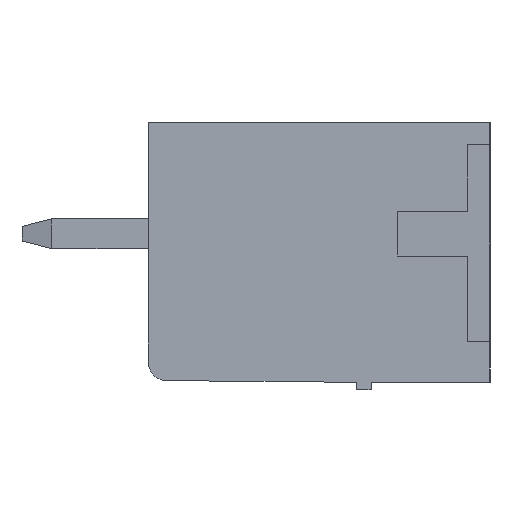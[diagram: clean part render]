
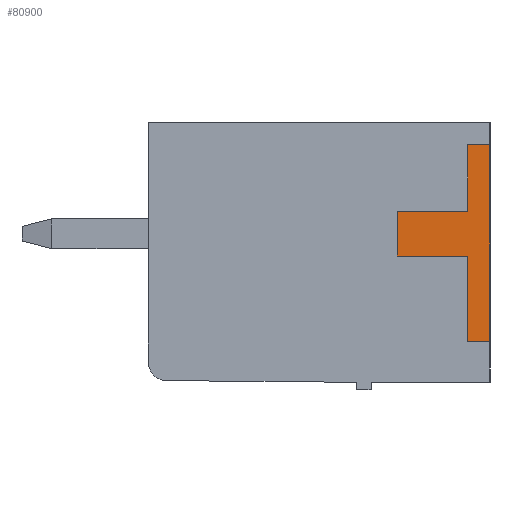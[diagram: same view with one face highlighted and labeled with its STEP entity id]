
A CAD part, left-side view. The second image highlights one B-rep face of the part: STEP entity #80900.
In plain terms, the highlighted planar face has unit normal (-1, 0, 0).
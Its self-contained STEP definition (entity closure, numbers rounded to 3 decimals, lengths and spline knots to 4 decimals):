
#100 = PLANE('',#101);
#101 = AXIS2_PLACEMENT_3D('',#102,#103,#104);
#102 = CARTESIAN_POINT('',(0.,0.,7.));
#103 = DIRECTION('',(0.,-1.,0.));
#104 = DIRECTION('',(0.,0.,-1.));
#128 = PLANE('',#129);
#129 = AXIS2_PLACEMENT_3D('',#130,#131,#132);
#130 = CARTESIAN_POINT('',(0.,0.,6.4));
#131 = DIRECTION('',(0.,0.,1.));
#132 = DIRECTION('',(0.,1.,0.));
#156 = PLANE('',#157);
#157 = AXIS2_PLACEMENT_3D('',#158,#159,#160);
#158 = CARTESIAN_POINT('',(0.,0.6,6.4));
#159 = DIRECTION('',(0.,1.,0.));
#160 = DIRECTION('',(0.,0.,-1.));
#184 = PLANE('',#185);
#185 = AXIS2_PLACEMENT_3D('',#186,#187,#188);
#186 = CARTESIAN_POINT('',(0.,0.6,4.6));
#187 = DIRECTION('',(0.,0.,1.));
#188 = DIRECTION('',(0.,1.,0.));
#212 = PLANE('',#213);
#213 = AXIS2_PLACEMENT_3D('',#214,#215,#216);
#214 = CARTESIAN_POINT('',(0.,2.5,4.6));
#215 = DIRECTION('',(0.,1.,0.));
#216 = DIRECTION('',(0.,0.,-1.));
#240 = PLANE('',#241);
#241 = AXIS2_PLACEMENT_3D('',#242,#243,#244);
#242 = CARTESIAN_POINT('',(0.,2.5,3.4));
#243 = DIRECTION('',(0.,0.,-1.));
#244 = DIRECTION('',(0.,-1.,0.));
#268 = PLANE('',#269);
#269 = AXIS2_PLACEMENT_3D('',#270,#271,#272);
#270 = CARTESIAN_POINT('',(0.,0.6,3.4));
#271 = DIRECTION('',(0.,1.,0.));
#272 = DIRECTION('',(0.,0.,-1.));
#296 = PLANE('',#297);
#297 = AXIS2_PLACEMENT_3D('',#298,#299,#300);
#298 = CARTESIAN_POINT('',(0.,0.6,1.1));
#299 = DIRECTION('',(0.,0.,-1.));
#300 = DIRECTION('',(0.,-1.,0.));
#9801 = VERTEX_POINT('',#9802);
#9802 = CARTESIAN_POINT('',(-0.2,0.,1.1));
#9823 = EDGE_CURVE('',#9801,#9824,#9826,.T.);
#9824 = VERTEX_POINT('',#9825);
#9825 = CARTESIAN_POINT('',(-0.2,0.,6.4));
#9826 = SURFACE_CURVE('',#9827,(#9831,#9838),.PCURVE_S1.);
#9827 = LINE('',#9828,#9829);
#9828 = CARTESIAN_POINT('',(-0.2,0.,1.1));
#9829 = VECTOR('',#9830,1.);
#9830 = DIRECTION('',(0.,0.,1.));
#9831 = PCURVE('',#100,#9832);
#9832 = DEFINITIONAL_REPRESENTATION('',(#9833),#9837);
#9833 = LINE('',#9834,#9835);
#9834 = CARTESIAN_POINT('',(5.9,-0.2));
#9835 = VECTOR('',#9836,1.);
#9836 = DIRECTION('',(-1.,0.));
#9837 = ( GEOMETRIC_REPRESENTATION_CONTEXT(2) 
PARAMETRIC_REPRESENTATION_CONTEXT() REPRESENTATION_CONTEXT('2D SPACE',''
  ) );
#9838 = PCURVE('',#9839,#9844);
#9839 = PLANE('',#9840);
#9840 = AXIS2_PLACEMENT_3D('',#9841,#9842,#9843);
#9841 = CARTESIAN_POINT('',(-0.2,0.,0.));
#9842 = DIRECTION('',(-1.,0.,0.));
#9843 = DIRECTION('',(0.,0.,1.));
#9844 = DEFINITIONAL_REPRESENTATION('',(#9845),#9849);
#9845 = LINE('',#9846,#9847);
#9846 = CARTESIAN_POINT('',(1.1,0.));
#9847 = VECTOR('',#9848,1.);
#9848 = DIRECTION('',(1.,0.));
#9849 = ( GEOMETRIC_REPRESENTATION_CONTEXT(2) 
PARAMETRIC_REPRESENTATION_CONTEXT() REPRESENTATION_CONTEXT('2D SPACE',''
  ) );
#80585 = VERTEX_POINT('',#80586);
#80586 = CARTESIAN_POINT('',(-0.2,0.6,1.1));
#80607 = EDGE_CURVE('',#80585,#9801,#80608,.T.);
#80608 = SURFACE_CURVE('',#80609,(#80613,#80620),.PCURVE_S1.);
#80609 = LINE('',#80610,#80611);
#80610 = CARTESIAN_POINT('',(-0.2,0.6,1.1));
#80611 = VECTOR('',#80612,1.);
#80612 = DIRECTION('',(0.,-1.,0.));
#80613 = PCURVE('',#296,#80614);
#80614 = DEFINITIONAL_REPRESENTATION('',(#80615),#80619);
#80615 = LINE('',#80616,#80617);
#80616 = CARTESIAN_POINT('',(0.,0.2));
#80617 = VECTOR('',#80618,1.);
#80618 = DIRECTION('',(1.,0.));
#80619 = ( GEOMETRIC_REPRESENTATION_CONTEXT(2) 
PARAMETRIC_REPRESENTATION_CONTEXT() REPRESENTATION_CONTEXT('2D SPACE',''
  ) );
#80620 = PCURVE('',#9839,#80621);
#80621 = DEFINITIONAL_REPRESENTATION('',(#80622),#80626);
#80622 = LINE('',#80623,#80624);
#80623 = CARTESIAN_POINT('',(1.1,0.6));
#80624 = VECTOR('',#80625,1.);
#80625 = DIRECTION('',(0.,-1.));
#80626 = ( GEOMETRIC_REPRESENTATION_CONTEXT(2) 
PARAMETRIC_REPRESENTATION_CONTEXT() REPRESENTATION_CONTEXT('2D SPACE',''
  ) );
#80634 = VERTEX_POINT('',#80635);
#80635 = CARTESIAN_POINT('',(-0.2,0.6,3.4));
#80656 = EDGE_CURVE('',#80634,#80585,#80657,.T.);
#80657 = SURFACE_CURVE('',#80658,(#80662,#80669),.PCURVE_S1.);
#80658 = LINE('',#80659,#80660);
#80659 = CARTESIAN_POINT('',(-0.2,0.6,3.4));
#80660 = VECTOR('',#80661,1.);
#80661 = DIRECTION('',(0.,0.,-1.));
#80662 = PCURVE('',#268,#80663);
#80663 = DEFINITIONAL_REPRESENTATION('',(#80664),#80668);
#80664 = LINE('',#80665,#80666);
#80665 = CARTESIAN_POINT('',(0.,0.2));
#80666 = VECTOR('',#80667,1.);
#80667 = DIRECTION('',(1.,0.));
#80668 = ( GEOMETRIC_REPRESENTATION_CONTEXT(2) 
PARAMETRIC_REPRESENTATION_CONTEXT() REPRESENTATION_CONTEXT('2D SPACE',''
  ) );
#80669 = PCURVE('',#9839,#80670);
#80670 = DEFINITIONAL_REPRESENTATION('',(#80671),#80675);
#80671 = LINE('',#80672,#80673);
#80672 = CARTESIAN_POINT('',(3.4,0.6));
#80673 = VECTOR('',#80674,1.);
#80674 = DIRECTION('',(-1.,0.));
#80675 = ( GEOMETRIC_REPRESENTATION_CONTEXT(2) 
PARAMETRIC_REPRESENTATION_CONTEXT() REPRESENTATION_CONTEXT('2D SPACE',''
  ) );
#80683 = VERTEX_POINT('',#80684);
#80684 = CARTESIAN_POINT('',(-0.2,2.5,3.4));
#80705 = EDGE_CURVE('',#80683,#80634,#80706,.T.);
#80706 = SURFACE_CURVE('',#80707,(#80711,#80718),.PCURVE_S1.);
#80707 = LINE('',#80708,#80709);
#80708 = CARTESIAN_POINT('',(-0.2,2.5,3.4));
#80709 = VECTOR('',#80710,1.);
#80710 = DIRECTION('',(0.,-1.,0.));
#80711 = PCURVE('',#240,#80712);
#80712 = DEFINITIONAL_REPRESENTATION('',(#80713),#80717);
#80713 = LINE('',#80714,#80715);
#80714 = CARTESIAN_POINT('',(0.,0.2));
#80715 = VECTOR('',#80716,1.);
#80716 = DIRECTION('',(1.,0.));
#80717 = ( GEOMETRIC_REPRESENTATION_CONTEXT(2) 
PARAMETRIC_REPRESENTATION_CONTEXT() REPRESENTATION_CONTEXT('2D SPACE',''
  ) );
#80718 = PCURVE('',#9839,#80719);
#80719 = DEFINITIONAL_REPRESENTATION('',(#80720),#80724);
#80720 = LINE('',#80721,#80722);
#80721 = CARTESIAN_POINT('',(3.4,2.5));
#80722 = VECTOR('',#80723,1.);
#80723 = DIRECTION('',(0.,-1.));
#80724 = ( GEOMETRIC_REPRESENTATION_CONTEXT(2) 
PARAMETRIC_REPRESENTATION_CONTEXT() REPRESENTATION_CONTEXT('2D SPACE',''
  ) );
#80732 = VERTEX_POINT('',#80733);
#80733 = CARTESIAN_POINT('',(-0.2,2.5,4.6));
#80754 = EDGE_CURVE('',#80732,#80683,#80755,.T.);
#80755 = SURFACE_CURVE('',#80756,(#80760,#80767),.PCURVE_S1.);
#80756 = LINE('',#80757,#80758);
#80757 = CARTESIAN_POINT('',(-0.2,2.5,4.6));
#80758 = VECTOR('',#80759,1.);
#80759 = DIRECTION('',(0.,0.,-1.));
#80760 = PCURVE('',#212,#80761);
#80761 = DEFINITIONAL_REPRESENTATION('',(#80762),#80766);
#80762 = LINE('',#80763,#80764);
#80763 = CARTESIAN_POINT('',(0.,0.2));
#80764 = VECTOR('',#80765,1.);
#80765 = DIRECTION('',(1.,0.));
#80766 = ( GEOMETRIC_REPRESENTATION_CONTEXT(2) 
PARAMETRIC_REPRESENTATION_CONTEXT() REPRESENTATION_CONTEXT('2D SPACE',''
  ) );
#80767 = PCURVE('',#9839,#80768);
#80768 = DEFINITIONAL_REPRESENTATION('',(#80769),#80773);
#80769 = LINE('',#80770,#80771);
#80770 = CARTESIAN_POINT('',(4.6,2.5));
#80771 = VECTOR('',#80772,1.);
#80772 = DIRECTION('',(-1.,0.));
#80773 = ( GEOMETRIC_REPRESENTATION_CONTEXT(2) 
PARAMETRIC_REPRESENTATION_CONTEXT() REPRESENTATION_CONTEXT('2D SPACE',''
  ) );
#80781 = VERTEX_POINT('',#80782);
#80782 = CARTESIAN_POINT('',(-0.2,0.6,4.6));
#80803 = EDGE_CURVE('',#80781,#80732,#80804,.T.);
#80804 = SURFACE_CURVE('',#80805,(#80809,#80816),.PCURVE_S1.);
#80805 = LINE('',#80806,#80807);
#80806 = CARTESIAN_POINT('',(-0.2,0.6,4.6));
#80807 = VECTOR('',#80808,1.);
#80808 = DIRECTION('',(0.,1.,0.));
#80809 = PCURVE('',#184,#80810);
#80810 = DEFINITIONAL_REPRESENTATION('',(#80811),#80815);
#80811 = LINE('',#80812,#80813);
#80812 = CARTESIAN_POINT('',(0.,0.2));
#80813 = VECTOR('',#80814,1.);
#80814 = DIRECTION('',(1.,0.));
#80815 = ( GEOMETRIC_REPRESENTATION_CONTEXT(2) 
PARAMETRIC_REPRESENTATION_CONTEXT() REPRESENTATION_CONTEXT('2D SPACE',''
  ) );
#80816 = PCURVE('',#9839,#80817);
#80817 = DEFINITIONAL_REPRESENTATION('',(#80818),#80822);
#80818 = LINE('',#80819,#80820);
#80819 = CARTESIAN_POINT('',(4.6,0.6));
#80820 = VECTOR('',#80821,1.);
#80821 = DIRECTION('',(0.,1.));
#80822 = ( GEOMETRIC_REPRESENTATION_CONTEXT(2) 
PARAMETRIC_REPRESENTATION_CONTEXT() REPRESENTATION_CONTEXT('2D SPACE',''
  ) );
#80830 = VERTEX_POINT('',#80831);
#80831 = CARTESIAN_POINT('',(-0.2,0.6,6.4));
#80852 = EDGE_CURVE('',#80830,#80781,#80853,.T.);
#80853 = SURFACE_CURVE('',#80854,(#80858,#80865),.PCURVE_S1.);
#80854 = LINE('',#80855,#80856);
#80855 = CARTESIAN_POINT('',(-0.2,0.6,6.4));
#80856 = VECTOR('',#80857,1.);
#80857 = DIRECTION('',(0.,0.,-1.));
#80858 = PCURVE('',#156,#80859);
#80859 = DEFINITIONAL_REPRESENTATION('',(#80860),#80864);
#80860 = LINE('',#80861,#80862);
#80861 = CARTESIAN_POINT('',(0.,0.2));
#80862 = VECTOR('',#80863,1.);
#80863 = DIRECTION('',(1.,0.));
#80864 = ( GEOMETRIC_REPRESENTATION_CONTEXT(2) 
PARAMETRIC_REPRESENTATION_CONTEXT() REPRESENTATION_CONTEXT('2D SPACE',''
  ) );
#80865 = PCURVE('',#9839,#80866);
#80866 = DEFINITIONAL_REPRESENTATION('',(#80867),#80871);
#80867 = LINE('',#80868,#80869);
#80868 = CARTESIAN_POINT('',(6.4,0.6));
#80869 = VECTOR('',#80870,1.);
#80870 = DIRECTION('',(-1.,0.));
#80871 = ( GEOMETRIC_REPRESENTATION_CONTEXT(2) 
PARAMETRIC_REPRESENTATION_CONTEXT() REPRESENTATION_CONTEXT('2D SPACE',''
  ) );
#80879 = EDGE_CURVE('',#9824,#80830,#80880,.T.);
#80880 = SURFACE_CURVE('',#80881,(#80885,#80892),.PCURVE_S1.);
#80881 = LINE('',#80882,#80883);
#80882 = CARTESIAN_POINT('',(-0.2,0.,6.4));
#80883 = VECTOR('',#80884,1.);
#80884 = DIRECTION('',(0.,1.,0.));
#80885 = PCURVE('',#128,#80886);
#80886 = DEFINITIONAL_REPRESENTATION('',(#80887),#80891);
#80887 = LINE('',#80888,#80889);
#80888 = CARTESIAN_POINT('',(0.,0.2));
#80889 = VECTOR('',#80890,1.);
#80890 = DIRECTION('',(1.,0.));
#80891 = ( GEOMETRIC_REPRESENTATION_CONTEXT(2) 
PARAMETRIC_REPRESENTATION_CONTEXT() REPRESENTATION_CONTEXT('2D SPACE',''
  ) );
#80892 = PCURVE('',#9839,#80893);
#80893 = DEFINITIONAL_REPRESENTATION('',(#80894),#80898);
#80894 = LINE('',#80895,#80896);
#80895 = CARTESIAN_POINT('',(6.4,0.));
#80896 = VECTOR('',#80897,1.);
#80897 = DIRECTION('',(0.,1.));
#80898 = ( GEOMETRIC_REPRESENTATION_CONTEXT(2) 
PARAMETRIC_REPRESENTATION_CONTEXT() REPRESENTATION_CONTEXT('2D SPACE',''
  ) );
#80900 = ADVANCED_FACE('',(#80901),#9839,.T.);
#80901 = FACE_BOUND('',#80902,.F.);
#80902 = EDGE_LOOP('',(#80903,#80904,#80905,#80906,#80907,#80908,#80909,
    #80910));
#80903 = ORIENTED_EDGE('',*,*,#80879,.F.);
#80904 = ORIENTED_EDGE('',*,*,#9823,.F.);
#80905 = ORIENTED_EDGE('',*,*,#80607,.F.);
#80906 = ORIENTED_EDGE('',*,*,#80656,.F.);
#80907 = ORIENTED_EDGE('',*,*,#80705,.F.);
#80908 = ORIENTED_EDGE('',*,*,#80754,.F.);
#80909 = ORIENTED_EDGE('',*,*,#80803,.F.);
#80910 = ORIENTED_EDGE('',*,*,#80852,.F.);
